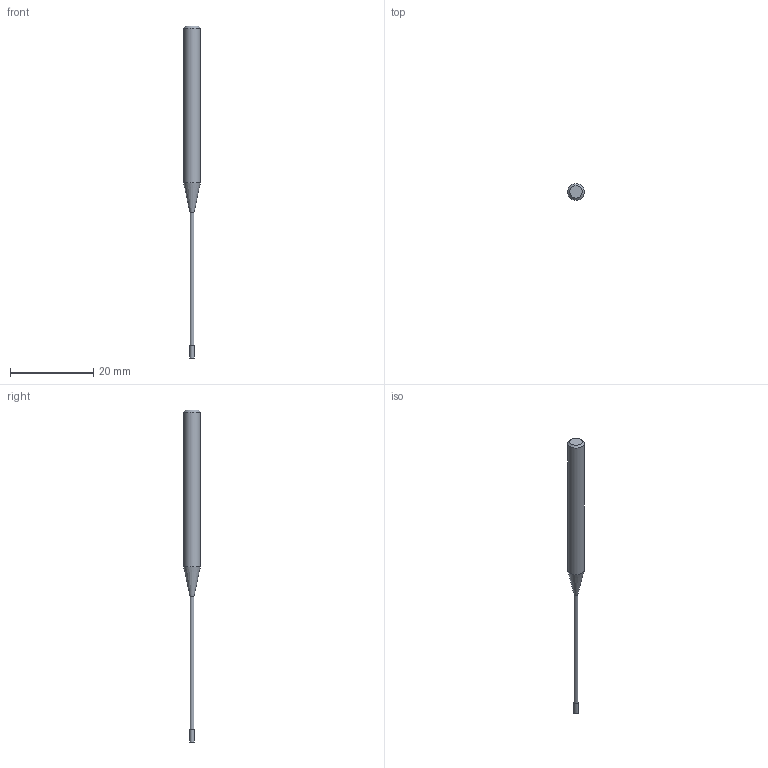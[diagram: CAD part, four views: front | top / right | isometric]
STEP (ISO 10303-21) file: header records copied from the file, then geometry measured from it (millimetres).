
FILE_DESCRIPTION((''),'2;1');
FILE_NAME('C:\Users\nsx150\Desktop\RSE230_20210427\01-00644-01035 RSE230 D1X3X35.step','2021-05-07T14:53:22',(''),(''),'STEP Write','Mastercam 2021 ... CNC Software, Inc.','');
FILE_SCHEMA(('AUTOMOTIVE_DESIGN'));
Length unit declared in the file: millimetre
Products named in the file (1): None
Bounding box: 4 x 4 x 80 mm (x, y, z)
Volume: 537.8 mm3; surface area: 648.1 mm2
Topology: 2 solids, 2 shells, 9 faces, 12 edges, 7 vertices
Faces by surface type: plane 4, cylinder 3, cone 2
Full cylindrical faces by diameter (mm): 0.95 x1, 1 x1, 4 x1
Entity records: 211 total; most frequent: DIRECTION 36, CARTESIAN_POINT 25, AXIS2_PLACEMENT_3D 18, ORIENTED_EDGE 14, EDGE_LOOP 14, STYLED_ITEM 12, ADVANCED_FACE 9, FACE_BOUND 8
